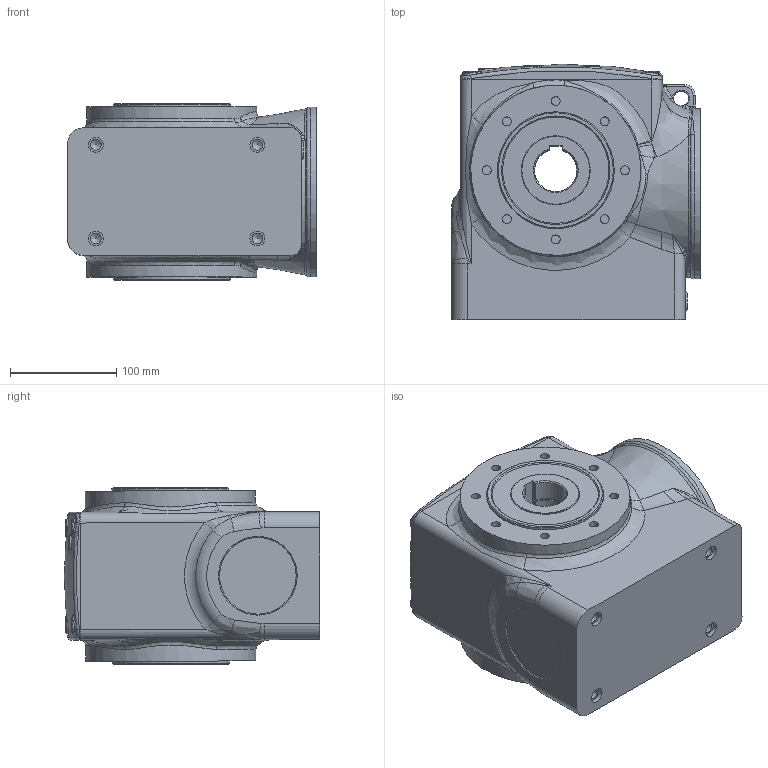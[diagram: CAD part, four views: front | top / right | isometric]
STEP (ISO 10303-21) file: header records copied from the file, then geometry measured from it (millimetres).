
FILE_DESCRIPTION(/* description */ (''),/* implementation_level */ '2;1');
FILE_NAME(/* name */ 'Z:\Dertec\RVS pakket tekeningen\Kasten\FSA + FS serie\FSA\FSA68\Step Customer\FSA68 HA40 #.stp',/* time_stamp */ '2017-12-08T12:20:14+01:00',/* author */ ('Dertec'),/* organization */ (''),/* preprocessor_version */ 'ST-DEVELOPER v16.1',/* originating_system */ 'Autodesk Inventor 2016',/* authorisation */ '');
FILE_SCHEMA (('AUTOMOTIVE_DESIGN { 1 0 10303 214 3 1 1 }'));
Length unit declared in the file: inch
Products named in the file (1): Part74
Bounding box: 234 x 240.13 x 166.24 mm (x, y, z)
Volume: 6161403.7 mm3; surface area: 399659.9 mm2
Topology: 1 solids, 4 shells, 445 faces, 1014 edges, 623 vertices
Faces by surface type: cylinder 127, plane 123, bspline 121, cone 40, torus 32, sphere 2
Full cylindrical faces by diameter (mm): 4.134 x8, 5.5 x8, 6.647 x4, 8.376 x16, 8.917 x1, 10.106 x4, 11 x8, 14 x5, 64.9 x4, 65 x2, 66 x1, 72 x1, 74.3 x1, 100 x3, 103.5 x2, 110 x2, 116.1 x1, 119.1 x1, 160 x2
Entity records: 18671 total; most frequent: CARTESIAN_POINT 9566, ORIENTED_EDGE 1714, DIRECTION 1626, EDGE_CURVE 857, AXIS2_PLACEMENT_3D 723, EDGE_LOOP 616, VERTEX_POINT 583, FACE_OUTER_BOUND 445
